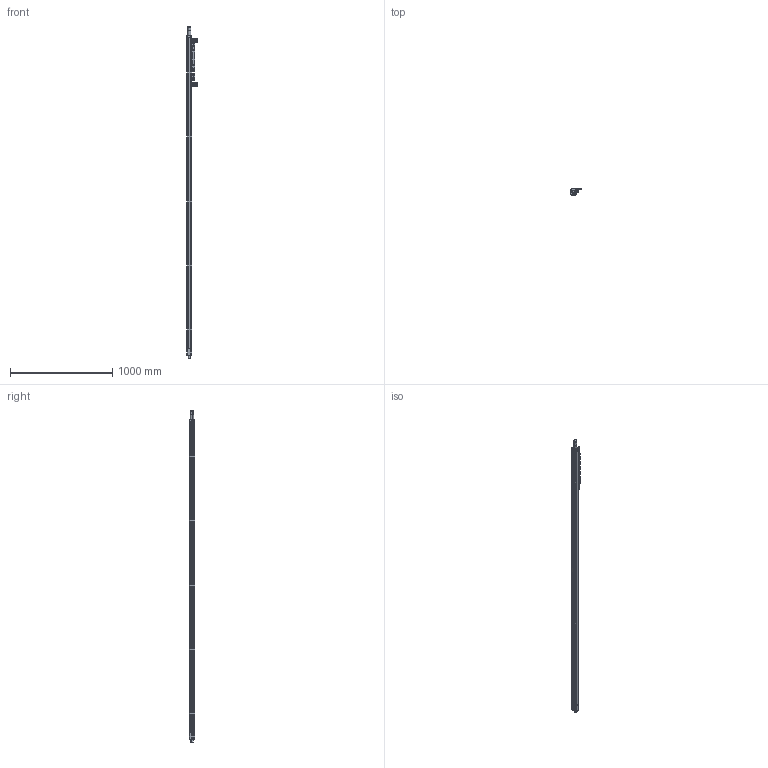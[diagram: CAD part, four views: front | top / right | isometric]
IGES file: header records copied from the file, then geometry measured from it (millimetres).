
Global section: file name: M:\acadjob\COMPACT\IGES-Daten für Kunden\Compact Plus\Compact_Plus_3000-ml.igs; native system: AutoCAD-15.05s (LMS Tech) (Microsoft Windows NT Version 5.1 (x86)); preprocessor: Autodesk IGES Translator R2000i (Jul 31 2000) from Autodesk, Inc.; date: 20070312.100404; units: millimetre
Bounding box: 106.19 x 55.58 x 3247 mm (x, y, z)
Surface area: 1261706.2 mm2 (no closed solid volume)
Topology: 0 solids, 0 shells, 472 faces, 11647 edges, 11647 vertices
Faces by surface type: bspline 472
